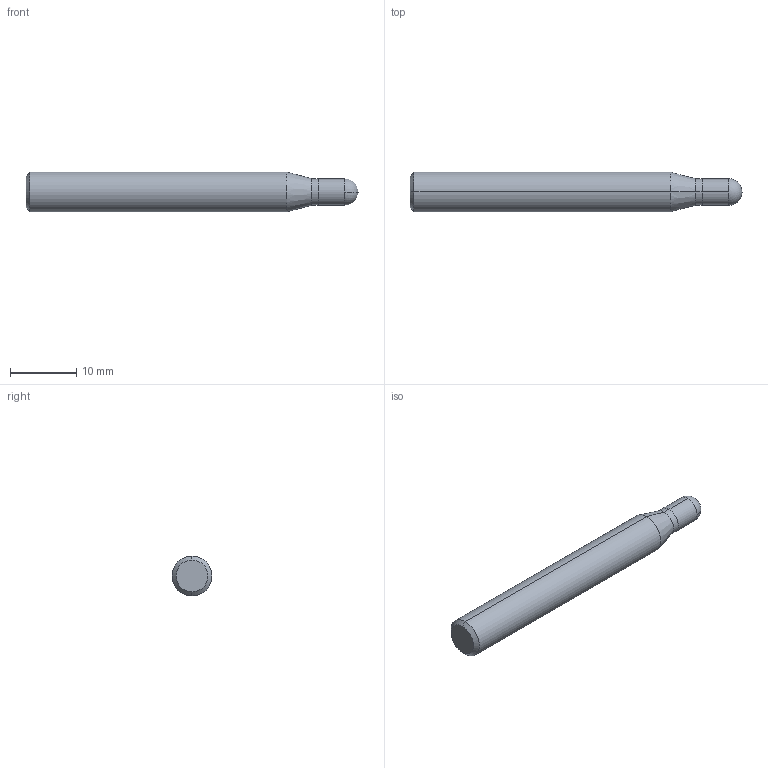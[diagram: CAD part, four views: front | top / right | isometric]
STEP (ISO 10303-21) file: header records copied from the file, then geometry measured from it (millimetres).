
FILE_DESCRIPTION (( 'STEP AP214' ), '1' );
FILE_NAME ('G9624040.STEP', '2018-07-02T09:32:49', ( 'USER' ), ( '' ), 'SwSTEP 2.0', 'SolidWorks 2014', '' );
FILE_SCHEMA (( 'AUTOMOTIVE_DESIGN' ));
Length unit declared in the file: millimetre
Products named in the file (1): G9624040
Bounding box: 50 x 6 x 6 mm (x, y, z)
Volume: 1261 mm3; surface area: 935.2 mm2
Topology: 2 solids, 2 shells, 15 faces, 30 edges, 17 vertices
Faces by surface type: cylinder 6, cone 4, plane 3, sphere 2
Entity records: 478 total; most frequent: DIRECTION 78, CARTESIAN_POINT 61, ORIENTED_EDGE 56, AXIS2_PLACEMENT_3D 34, EDGE_CURVE 28, CIRCLE 18, VERTEX_POINT 17, ADVANCED_FACE 15
